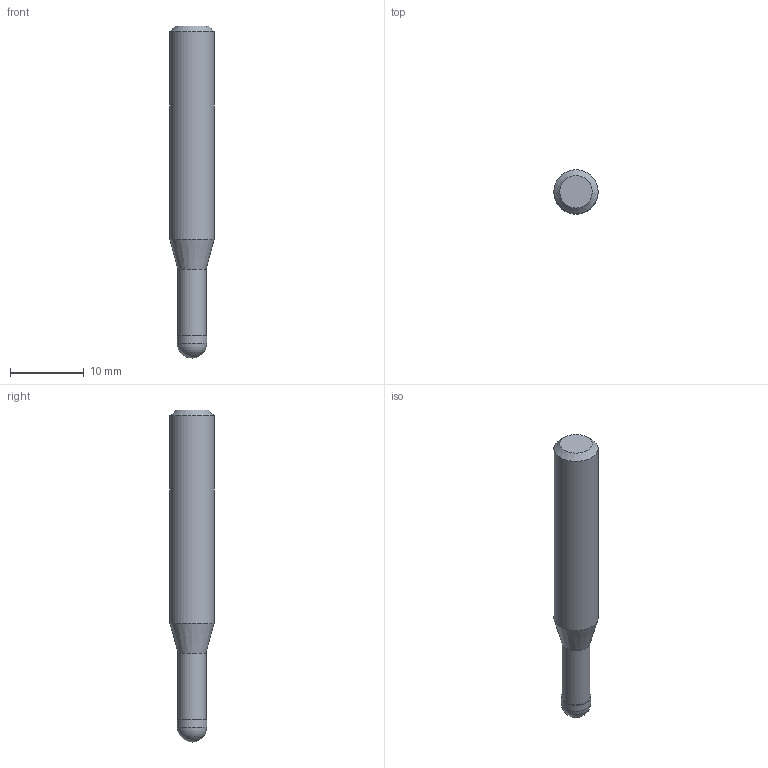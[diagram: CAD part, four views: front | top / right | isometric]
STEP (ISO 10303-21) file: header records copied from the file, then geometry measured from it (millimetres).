
FILE_DESCRIPTION((''),'2;1');
FILE_NAME('C:\Users\nsx150\AppData\Local\Temp\Mastercam 2021\QT8KEW0Y7J\TEMP.step','2021-04-23T11:21:56',(''),(''),'STEP Write','Mastercam 2021 ... CNC Software, Inc.','');
FILE_SCHEMA(('AUTOMOTIVE_DESIGN'));
Length unit declared in the file: millimetre
Products named in the file (1): None
Bounding box: 6 x 6 x 45 mm (x, y, z)
Volume: 1021.6 mm3; surface area: 797.7 mm2
Topology: 2 solids, 2 shells, 9 faces, 14 edges, 8 vertices
Faces by surface type: plane 3, cylinder 3, cone 2, sphere 1
Full cylindrical faces by diameter (mm): 3.8 x1, 4 x1, 6 x1
Entity records: 211 total; most frequent: DIRECTION 36, CARTESIAN_POINT 25, AXIS2_PLACEMENT_3D 18, ORIENTED_EDGE 14, EDGE_LOOP 14, STYLED_ITEM 12, ADVANCED_FACE 9, FACE_BOUND 8
